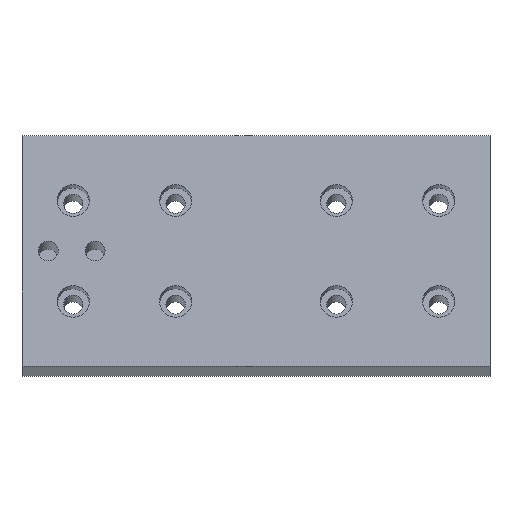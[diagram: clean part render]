
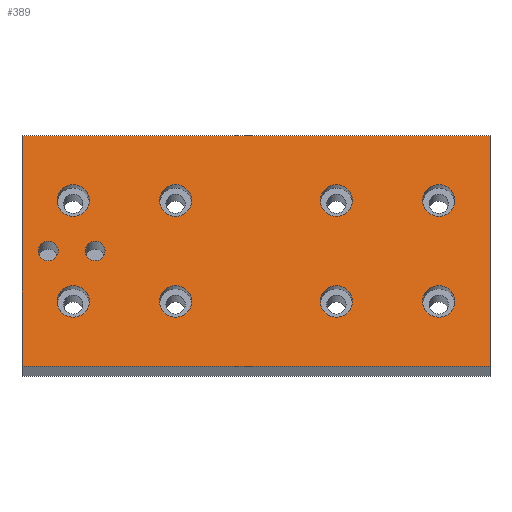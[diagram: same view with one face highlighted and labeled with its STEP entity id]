
A CAD part, front view. The second image highlights one B-rep face of the part: STEP entity #389.
In plain terms, the highlighted planar face has unit normal (0, -0.985, 0.174).
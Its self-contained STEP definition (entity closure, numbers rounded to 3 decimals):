
#37=CARTESIAN_POINT('',(-278.5,-58.605,195.44));
#38=VERTEX_POINT('',#37);
#45=CARTESIAN_POINT('',(-438.5,-58.605,195.44));
#46=VERTEX_POINT('',#45);
#47=CARTESIAN_POINT('',(-438.5,-58.605,195.44));
#48=DIRECTION('',(1.0,0.0,0.0));
#49=VECTOR('',#48,1.);
#50=LINE('',#47,#49);
#51=EDGE_CURVE('',#46,#38,#50,.T.);
#75=CARTESIAN_POINT('',(-278.5,-44.714,274.224));
#76=VERTEX_POINT('',#75);
#83=CARTESIAN_POINT('',(-278.5,-58.605,195.44));
#84=DIRECTION('',(0.,0.174,0.985));
#85=VECTOR('',#84,1.);
#86=LINE('',#83,#85);
#87=EDGE_CURVE('',#38,#76,#86,.T.);
#128=CARTESIAN_POINT('',(-438.5,-44.714,274.224));
#129=VERTEX_POINT('',#128);
#136=CARTESIAN_POINT('',(-278.5,-44.714,274.224));
#137=DIRECTION('',(-1.0,0.,0.));
#138=VECTOR('',#137,1.);
#139=LINE('',#136,#138);
#140=EDGE_CURVE('',#76,#129,#139,.T.);
#158=CARTESIAN_POINT('',(-438.5,-44.714,274.224));
#159=DIRECTION('',(0.,-0.174,-0.985));
#160=VECTOR('',#159,1.);
#161=LINE('',#158,#160);
#162=EDGE_CURVE('',#129,#46,#161,.T.);
#268=CARTESIAN_POINT('',(-438.5,-58.605,195.44));
#269=DIRECTION('',(0.0,-0.985,0.174));
#270=DIRECTION('',(1.0,0.0,0.0));
#271=AXIS2_PLACEMENT_3D('',#268,#269,#270);
#272=PLANE('',#271);
#273=ORIENTED_EDGE('',*,*,#51,.T.);
#274=ORIENTED_EDGE('',*,*,#87,.T.);
#275=ORIENTED_EDGE('',*,*,#140,.T.);
#276=ORIENTED_EDGE('',*,*,#162,.T.);
#277=EDGE_LOOP('',(#273,#274,#275,#276));
#278=FACE_OUTER_BOUND('',#277,.T.);
#279=CARTESIAN_POINT('',(-415.5,-54.698,217.598));
#280=VERTEX_POINT('',#279);
#281=CARTESIAN_POINT('',(-421.,-54.698,217.598));
#282=DIRECTION('',(0.0,-0.985,0.174));
#283=DIRECTION('',(1.0,0.0,0.0));
#284=AXIS2_PLACEMENT_3D('',#281,#282,#283);
#285=CIRCLE('',#284,5.5);
#286=EDGE_CURVE('',#280,#280,#285,.T.);
#287=ORIENTED_EDGE('',*,*,#286,.F.);
#288=EDGE_LOOP('',(#287));
#289=FACE_BOUND('',#288,.T.);
#290=CARTESIAN_POINT('',(-415.5,-48.621,252.066));
#291=VERTEX_POINT('',#290);
#292=CARTESIAN_POINT('',(-421.,-48.621,252.066));
#293=DIRECTION('',(0.0,-0.985,0.174));
#294=DIRECTION('',(1.0,0.0,0.0));
#295=AXIS2_PLACEMENT_3D('',#292,#293,#294);
#296=CIRCLE('',#295,5.5);
#297=EDGE_CURVE('',#291,#291,#296,.T.);
#298=ORIENTED_EDGE('',*,*,#297,.F.);
#299=EDGE_LOOP('',(#298));
#300=FACE_BOUND('',#299,.T.);
#301=CARTESIAN_POINT('',(-380.5,-54.698,217.598));
#302=VERTEX_POINT('',#301);
#303=CARTESIAN_POINT('',(-386.,-54.698,217.598));
#304=DIRECTION('',(0.0,-0.985,0.174));
#305=DIRECTION('',(1.0,0.0,0.0));
#306=AXIS2_PLACEMENT_3D('',#303,#304,#305);
#307=CIRCLE('',#306,5.5);
#308=EDGE_CURVE('',#302,#302,#307,.T.);
#309=ORIENTED_EDGE('',*,*,#308,.F.);
#310=EDGE_LOOP('',(#309));
#311=FACE_BOUND('',#310,.T.);
#312=CARTESIAN_POINT('',(-380.5,-48.621,252.066));
#313=VERTEX_POINT('',#312);
#314=CARTESIAN_POINT('',(-386.,-48.621,252.066));
#315=DIRECTION('',(0.0,-0.985,0.174));
#316=DIRECTION('',(1.0,0.0,0.0));
#317=AXIS2_PLACEMENT_3D('',#314,#315,#316);
#318=CIRCLE('',#317,5.5);
#319=EDGE_CURVE('',#313,#313,#318,.T.);
#320=ORIENTED_EDGE('',*,*,#319,.F.);
#321=EDGE_LOOP('',(#320));
#322=FACE_BOUND('',#321,.T.);
#323=CARTESIAN_POINT('',(-325.5,-54.698,217.598));
#324=VERTEX_POINT('',#323);
#325=CARTESIAN_POINT('',(-331.,-54.698,217.598));
#326=DIRECTION('',(0.0,-0.985,0.174));
#327=DIRECTION('',(1.0,0.0,0.0));
#328=AXIS2_PLACEMENT_3D('',#325,#326,#327);
#329=CIRCLE('',#328,5.5);
#330=EDGE_CURVE('',#324,#324,#329,.T.);
#331=ORIENTED_EDGE('',*,*,#330,.F.);
#332=EDGE_LOOP('',(#331));
#333=FACE_BOUND('',#332,.T.);
#334=CARTESIAN_POINT('',(-325.5,-48.621,252.066));
#335=VERTEX_POINT('',#334);
#336=CARTESIAN_POINT('',(-331.,-48.621,252.066));
#337=DIRECTION('',(0.0,-0.985,0.174));
#338=DIRECTION('',(1.0,0.0,0.0));
#339=AXIS2_PLACEMENT_3D('',#336,#337,#338);
#340=CIRCLE('',#339,5.5);
#341=EDGE_CURVE('',#335,#335,#340,.T.);
#342=ORIENTED_EDGE('',*,*,#341,.F.);
#343=EDGE_LOOP('',(#342));
#344=FACE_BOUND('',#343,.T.);
#345=CARTESIAN_POINT('',(-290.5,-54.698,217.598));
#346=VERTEX_POINT('',#345);
#347=CARTESIAN_POINT('',(-296.,-54.698,217.598));
#348=DIRECTION('',(0.0,-0.985,0.174));
#349=DIRECTION('',(1.0,0.0,0.0));
#350=AXIS2_PLACEMENT_3D('',#347,#348,#349);
#351=CIRCLE('',#350,5.5);
#352=EDGE_CURVE('',#346,#346,#351,.T.);
#353=ORIENTED_EDGE('',*,*,#352,.F.);
#354=EDGE_LOOP('',(#353));
#355=FACE_BOUND('',#354,.T.);
#356=CARTESIAN_POINT('',(-290.5,-48.621,252.066));
#357=VERTEX_POINT('',#356);
#358=CARTESIAN_POINT('',(-296.,-48.621,252.066));
#359=DIRECTION('',(0.0,-0.985,0.174));
#360=DIRECTION('',(1.0,0.0,0.0));
#361=AXIS2_PLACEMENT_3D('',#358,#359,#360);
#362=CIRCLE('',#361,5.5);
#363=EDGE_CURVE('',#357,#357,#362,.T.);
#364=ORIENTED_EDGE('',*,*,#363,.F.);
#365=EDGE_LOOP('',(#364));
#366=FACE_BOUND('',#365,.T.);
#367=CARTESIAN_POINT('',(-426.1,-51.659,234.832));
#368=VERTEX_POINT('',#367);
#369=CARTESIAN_POINT('',(-429.5,-51.659,234.832));
#370=DIRECTION('',(0.0,-0.985,0.174));
#371=DIRECTION('',(1.0,0.0,0.0));
#372=AXIS2_PLACEMENT_3D('',#369,#370,#371);
#373=CIRCLE('',#372,3.4);
#374=EDGE_CURVE('',#368,#368,#373,.T.);
#375=ORIENTED_EDGE('',*,*,#374,.F.);
#376=EDGE_LOOP('',(#375));
#377=FACE_BOUND('',#376,.T.);
#378=CARTESIAN_POINT('',(-410.1,-51.659,234.832));
#379=VERTEX_POINT('',#378);
#380=CARTESIAN_POINT('',(-413.5,-51.659,234.832));
#381=DIRECTION('',(0.0,-0.985,0.174));
#382=DIRECTION('',(1.0,0.0,0.0));
#383=AXIS2_PLACEMENT_3D('',#380,#381,#382);
#384=CIRCLE('',#383,3.4);
#385=EDGE_CURVE('',#379,#379,#384,.T.);
#386=ORIENTED_EDGE('',*,*,#385,.F.);
#387=EDGE_LOOP('',(#386));
#388=FACE_BOUND('',#387,.T.);
#389=ADVANCED_FACE('',(#278,#289,#300,#311,#322,#333,#344,#355,#366,#377,#388),#272,.T.);
